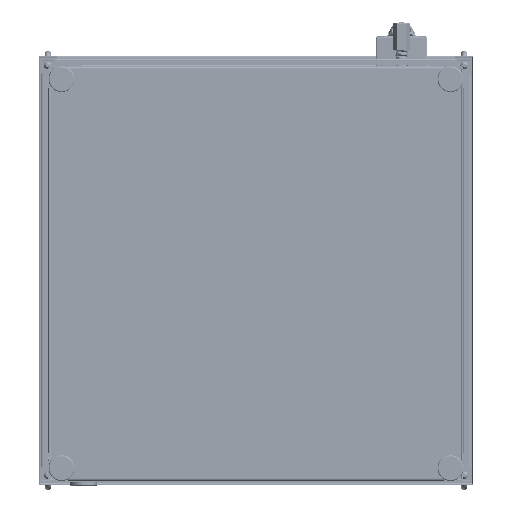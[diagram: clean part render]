
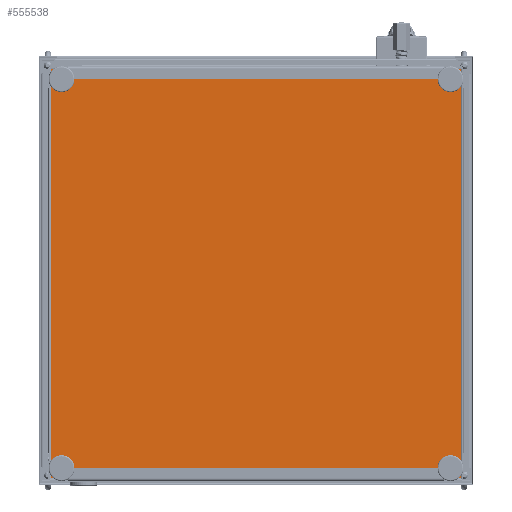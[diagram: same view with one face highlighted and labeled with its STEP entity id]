
A CAD part, front view. The second image highlights one B-rep face of the part: STEP entity #555538.
In plain terms, the highlighted planar face has unit normal (0, -1, 0) as drawn and (0, 0, 1) by its records, which use the part's own axes.
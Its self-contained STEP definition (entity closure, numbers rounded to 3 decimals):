
#8759 = CARTESIAN_POINT ( 'NONE',  ( -300., -300., 2. ) ) ;
#11124 = AXIS2_PLACEMENT_3D ( 'NONE', #353623, #549791, #509824 ) ;
#12651 = VECTOR ( 'NONE', #18532, 1000. ) ;
#18532 = DIRECTION ( 'NONE',  ( 1., 0., 0. ) ) ;
#32557 = LINE ( 'NONE', #643798, #434515 ) ;
#39316 = EDGE_LOOP ( 'NONE', ( #396418, #130095 ) ) ;
#59750 = ORIENTED_EDGE ( 'NONE', *, *, #458350, .F. ) ;
#61737 = DIRECTION ( 'NONE',  ( 0., 0., 1. ) ) ;
#66364 = VERTEX_POINT ( 'NONE', #279595 ) ;
#66958 = CARTESIAN_POINT ( 'NONE',  ( 294.5, 300., 2. ) ) ;
#73426 = DIRECTION ( 'NONE',  ( 0., 0., 1. ) ) ;
#74838 = DIRECTION ( 'NONE',  ( -1., 0., 0. ) ) ;
#89308 = CARTESIAN_POINT ( 'NONE',  ( -316., -316., 2. ) ) ;
#89684 = CARTESIAN_POINT ( 'NONE',  ( -294.5, 300., 2. ) ) ;
#90017 = EDGE_CURVE ( 'NONE', #106416, #345247, #103773, .T. ) ;
#103773 = CIRCLE ( 'NONE', #273645, 5.5 ) ;
#104095 = VERTEX_POINT ( 'NONE', #418910 ) ;
#106416 = VERTEX_POINT ( 'NONE', #596408 ) ;
#130095 = ORIENTED_EDGE ( 'NONE', *, *, #90017, .F. ) ;
#137395 = LINE ( 'NONE', #645607, #453147 ) ;
#142785 = CIRCLE ( 'NONE', #206342, 5.5 ) ;
#146253 = EDGE_LOOP ( 'NONE', ( #656952, #328184 ) ) ;
#149040 = EDGE_LOOP ( 'NONE', ( #512904, #458074 ) ) ;
#155987 = LINE ( 'NONE', #205851, #308703 ) ;
#160268 = AXIS2_PLACEMENT_3D ( 'NONE', #287132, #549492, #489909 ) ;
#166802 = VERTEX_POINT ( 'NONE', #638010 ) ;
#168123 = CARTESIAN_POINT ( 'NONE',  ( -317.293, 316., 2. ) ) ;
#180689 = EDGE_CURVE ( 'NONE', #345247, #106416, #423405, .T. ) ;
#189083 = FACE_BOUND ( 'NONE', #39316, .T. ) ;
#198669 = ORIENTED_EDGE ( 'NONE', *, *, #386629, .F. ) ;
#205851 = CARTESIAN_POINT ( 'NONE',  ( -316., -317.293, 2. ) ) ;
#206342 = AXIS2_PLACEMENT_3D ( 'NONE', #8759, #367586, #218062 ) ;
#217412 = VERTEX_POINT ( 'NONE', #384736 ) ;
#218062 = DIRECTION ( 'NONE',  ( -1., 0., 0. ) ) ;
#225786 = EDGE_CURVE ( 'NONE', #231629, #297612, #137395, .T. ) ;
#231629 = VERTEX_POINT ( 'NONE', #242012 ) ;
#233037 = VERTEX_POINT ( 'NONE', #249558 ) ;
#238551 = DIRECTION ( 'NONE',  ( -1., 0., 0. ) ) ;
#241526 = DIRECTION ( 'NONE',  ( -1., 0., 0. ) ) ;
#242012 = CARTESIAN_POINT ( 'NONE',  ( 316., 316., 2. ) ) ;
#247483 = ORIENTED_EDGE ( 'NONE', *, *, #637343, .F. ) ;
#249558 = CARTESIAN_POINT ( 'NONE',  ( -305.5, -300., 2. ) ) ;
#250410 = CARTESIAN_POINT ( 'NONE',  ( -300., 300., 2. ) ) ;
#251995 = FACE_BOUND ( 'NONE', #596944, .T. ) ;
#273645 = AXIS2_PLACEMENT_3D ( 'NONE', #380797, #533706, #424142 ) ;
#275851 = CIRCLE ( 'NONE', #604555, 5.5 ) ;
#276297 = CIRCLE ( 'NONE', #11124, 5.5 ) ;
#276878 = AXIS2_PLACEMENT_3D ( 'NONE', #250410, #300243, #343572 ) ;
#279595 = CARTESIAN_POINT ( 'NONE',  ( 305.5, 300., 2. ) ) ;
#285431 = EDGE_LOOP ( 'NONE', ( #397661, #59750, #198669, #647231 ) ) ;
#287132 = CARTESIAN_POINT ( 'NONE',  ( 300., 300., 2. ) ) ;
#291965 = AXIS2_PLACEMENT_3D ( 'NONE', #377201, #61737, #74838 ) ;
#292008 = DIRECTION ( 'NONE',  ( 0., 0., -1. ) ) ;
#297612 = VERTEX_POINT ( 'NONE', #391953 ) ;
#300243 = DIRECTION ( 'NONE',  ( 0., 0., 1. ) ) ;
#308703 = VECTOR ( 'NONE', #365180, 1000. ) ;
#322733 = CARTESIAN_POINT ( 'NONE',  ( -300., -300., 2. ) ) ;
#328184 = ORIENTED_EDGE ( 'NONE', *, *, #520932, .F. ) ;
#340397 = CIRCLE ( 'NONE', #276878, 5.5 ) ;
#343572 = DIRECTION ( 'NONE',  ( -1., 0., 0. ) ) ;
#345247 = VERTEX_POINT ( 'NONE', #572839 ) ;
#353623 = CARTESIAN_POINT ( 'NONE',  ( 300., 300., 2. ) ) ;
#365180 = DIRECTION ( 'NONE',  ( 0., 1., 0. ) ) ;
#367586 = DIRECTION ( 'NONE',  ( 0., 0., 1. ) ) ;
#375845 = DIRECTION ( 'NONE',  ( -1., 0., 0. ) ) ;
#377201 = CARTESIAN_POINT ( 'NONE',  ( -300., 300., 2. ) ) ;
#380797 = CARTESIAN_POINT ( 'NONE',  ( 300., -300., 2. ) ) ;
#384736 = CARTESIAN_POINT ( 'NONE',  ( -305.5, 300., 2. ) ) ;
#386629 = EDGE_CURVE ( 'NONE', #297612, #488267, #32557, .T. ) ;
#388209 = AXIS2_PLACEMENT_3D ( 'NONE', #657251, #292008, #391757 ) ;
#391757 = DIRECTION ( 'NONE',  ( -1., 0., 0. ) ) ;
#391953 = CARTESIAN_POINT ( 'NONE',  ( 316., -316., 2. ) ) ;
#396418 = ORIENTED_EDGE ( 'NONE', *, *, #180689, .F. ) ;
#396787 = EDGE_CURVE ( 'NONE', #217412, #434878, #408705, .T. ) ;
#397661 = ORIENTED_EDGE ( 'NONE', *, *, #410354, .F. ) ;
#400915 = CARTESIAN_POINT ( 'NONE',  ( 300., -300., 2. ) ) ;
#402959 = AXIS2_PLACEMENT_3D ( 'NONE', #400915, #440973, #241526 ) ;
#408705 = CIRCLE ( 'NONE', #291965, 5.5 ) ;
#410354 = EDGE_CURVE ( 'NONE', #166802, #231629, #626525, .T. ) ;
#418910 = CARTESIAN_POINT ( 'NONE',  ( -294.5, -300., 2. ) ) ;
#423405 = CIRCLE ( 'NONE', #402959, 5.5 ) ;
#424142 = DIRECTION ( 'NONE',  ( -1., 0., 0. ) ) ;
#430058 = DIRECTION ( 'NONE',  ( 0., -1., 0. ) ) ;
#434515 = VECTOR ( 'NONE', #238551, 1000. ) ;
#434878 = VERTEX_POINT ( 'NONE', #89684 ) ;
#436104 = VERTEX_POINT ( 'NONE', #66958 ) ;
#440973 = DIRECTION ( 'NONE',  ( 0., 0., 1. ) ) ;
#444908 = PLANE ( 'NONE',  #388209 ) ;
#446813 = CIRCLE ( 'NONE', #160268, 5.5 ) ;
#453147 = VECTOR ( 'NONE', #430058, 1000. ) ;
#454723 = FACE_OUTER_BOUND ( 'NONE', #285431, .T. ) ;
#458074 = ORIENTED_EDGE ( 'NONE', *, *, #586087, .F. ) ;
#458350 = EDGE_CURVE ( 'NONE', #488267, #166802, #155987, .T. ) ;
#481528 = EDGE_CURVE ( 'NONE', #233037, #104095, #142785, .T. ) ;
#488267 = VERTEX_POINT ( 'NONE', #89308 ) ;
#489909 = DIRECTION ( 'NONE',  ( -1., 0., 0. ) ) ;
#498078 = FACE_BOUND ( 'NONE', #149040, .T. ) ;
#509824 = DIRECTION ( 'NONE',  ( -1., 0., 0. ) ) ;
#512904 = ORIENTED_EDGE ( 'NONE', *, *, #396787, .F. ) ;
#520021 = ORIENTED_EDGE ( 'NONE', *, *, #564572, .F. ) ;
#520932 = EDGE_CURVE ( 'NONE', #104095, #233037, #275851, .T. ) ;
#533706 = DIRECTION ( 'NONE',  ( 0., 0., 1. ) ) ;
#549492 = DIRECTION ( 'NONE',  ( 0., 0., 1. ) ) ;
#549791 = DIRECTION ( 'NONE',  ( 0., 0., 1. ) ) ;
#555538 = ADVANCED_FACE ( 'NONE', ( #189083, #600957, #498078, #251995, #454723 ), #444908, .F. ) ;
#564572 = EDGE_CURVE ( 'NONE', #436104, #66364, #446813, .T. ) ;
#572839 = CARTESIAN_POINT ( 'NONE',  ( 294.5, -300., 2. ) ) ;
#586087 = EDGE_CURVE ( 'NONE', #434878, #217412, #340397, .T. ) ;
#596408 = CARTESIAN_POINT ( 'NONE',  ( 305.5, -300., 2. ) ) ;
#596944 = EDGE_LOOP ( 'NONE', ( #520021, #247483 ) ) ;
#600957 = FACE_BOUND ( 'NONE', #146253, .T. ) ;
#604555 = AXIS2_PLACEMENT_3D ( 'NONE', #322733, #73426, #375845 ) ;
#626525 = LINE ( 'NONE', #168123, #12651 ) ;
#637343 = EDGE_CURVE ( 'NONE', #66364, #436104, #276297, .T. ) ;
#638010 = CARTESIAN_POINT ( 'NONE',  ( -316., 316., 2. ) ) ;
#643798 = CARTESIAN_POINT ( 'NONE',  ( 317.293, -316., 2. ) ) ;
#645607 = CARTESIAN_POINT ( 'NONE',  ( 316., 317.293, 2. ) ) ;
#647231 = ORIENTED_EDGE ( 'NONE', *, *, #225786, .F. ) ;
#656952 = ORIENTED_EDGE ( 'NONE', *, *, #481528, .F. ) ;
#657251 = CARTESIAN_POINT ( 'NONE',  ( -320., 320., 2. ) ) ;
